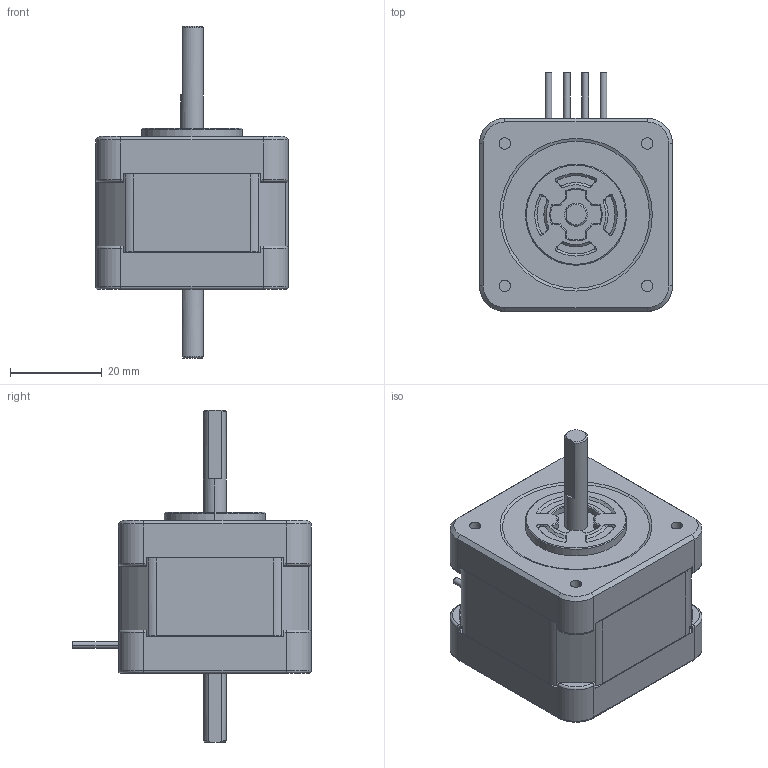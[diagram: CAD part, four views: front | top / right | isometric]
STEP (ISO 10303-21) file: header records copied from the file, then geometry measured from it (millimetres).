
FILE_DESCRIPTION (( 'STEP AP203' ), '1' );
FILE_NAME ('SH1421-5211.STEP', '2012-06-25T12:33:02', ( 'sanyodenki-admin' ), ( '' ), 'SwSTEP 2.0', 'SolidWorks 2011', '' );
FILE_SCHEMA (( 'CONFIG_CONTROL_DESIGN' ));
Length unit declared in the file: millimetre
Products named in the file (1): SH1421-5211
Bounding box: 42 x 52 x 72.25 mm (x, y, z)
Volume: 57576.1 mm3; surface area: 10703.6 mm2
Topology: 1 solids, 1 shells, 346 faces, 853 edges, 525 vertices
Faces by surface type: plane 154, cylinder 105, cone 57, bspline 18, torus 12
Entity records: 10637 total; most frequent: CARTESIAN_POINT 2467, ORIENTED_EDGE 1702, DIRECTION 1694, EDGE_CURVE 851, AXIS2_PLACEMENT_3D 624, VERTEX_POINT 525, VECTOR 446, LINE 446
